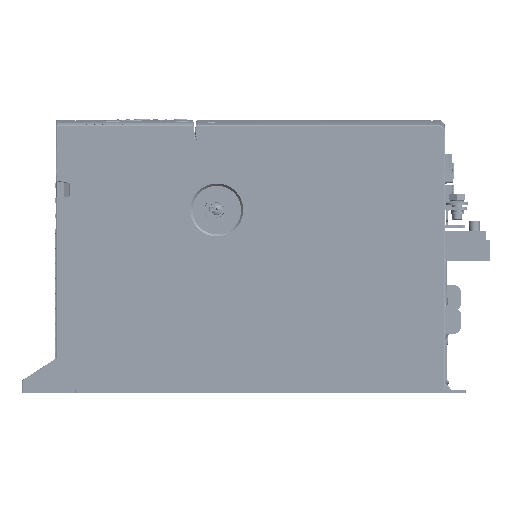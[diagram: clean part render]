
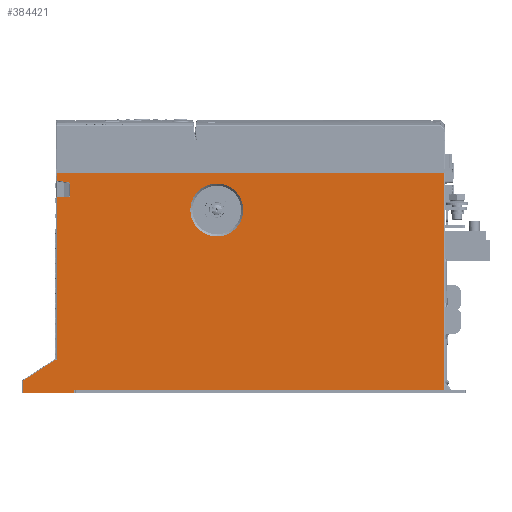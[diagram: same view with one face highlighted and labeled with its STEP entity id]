
A CAD part, left-side view. The second image highlights one B-rep face of the part: STEP entity #384421.
In plain terms, the highlighted planar face has unit normal (-1, 0, 0).
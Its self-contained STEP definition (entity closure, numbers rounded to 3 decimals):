
#36343=DIRECTION('',(0.,0.052,-0.999));
#36344=VECTOR('',#36343,1.502);
#36345=CARTESIAN_POINT('',(-115.,-11.,-133.5));
#36346=LINE('',#36345,#36344);
#36347=CARTESIAN_POINT('',(-115.,20.,-128.043));
#36348=DIRECTION('',(1.,0.,0.));
#36349=DIRECTION('',(0.,1.,0.));
#36350=AXIS2_PLACEMENT_3D('',#36347,#36348,#36349);
#36352=DIRECTION('',(0.,-0.838,0.545));
#36353=VECTOR('',#36352,23.163);
#36354=CARTESIAN_POINT('',(-115.,20.272,-127.623));
#36355=LINE('',#36354,#36353);
#36356=DIRECTION('',(0.,-1.,0.));
#36357=VECTOR('',#36356,0.352);
#36358=CARTESIAN_POINT('',(-115.,0.852,-115.));
#36359=LINE('',#36358,#36357);
#36360=CARTESIAN_POINT('',(-115.,0.5,-114.));
#36361=DIRECTION('',(-1.,0.,0.));
#36362=DIRECTION('',(0.,0.,-1.));
#36363=AXIS2_PLACEMENT_3D('',#36360,#36361,#36362);
#36365=DIRECTION('',(0.,0.985,0.174));
#36366=VECTOR('',#36365,7.382);
#36367=CARTESIAN_POINT('',(-115.,-7.77,
-5.355));
#36368=LINE('',#36367,#36366);
#36369=CARTESIAN_POINT('',(-115.,-99.2,-22.3));
#36370=DIRECTION('',(-1.,0.,0.));
#36371=DIRECTION('',(0.,0.,-1.));
#36372=AXIS2_PLACEMENT_3D('',#36369,#36370,#36371);
#36374=CARTESIAN_POINT('',(-115.,-99.2,-22.3));
#36375=DIRECTION('',(-1.,0.,0.));
#36376=DIRECTION('',(0.,0.,1.));
#36377=AXIS2_PLACEMENT_3D('',#36374,#36375,#36376);
#36379=DIRECTION('',(0.,1.,0.));
#36380=VECTOR('',#36379,239.);
#36381=CARTESIAN_POINT('',(-115.,-239.5,0.8));
#36382=LINE('',#36381,#36380);
#36388=DIRECTION('',(0.,0.,-1.));
#36389=VECTOR('',#36388,4.873);
#36390=CARTESIAN_POINT('',(-115.,-0.5,0.8));
#36391=LINE('',#36390,#36389);
#78685=DIRECTION('',(0.,-1.,0.));
#78686=VECTOR('',#78685,31.421);
#78687=CARTESIAN_POINT('',(-115.,20.5,-135.));
#78688=LINE('',#78687,#78686);
#78714=DIRECTION('',(0.,0.,-1.));
#78715=VECTOR('',#78714,6.957);
#78716=CARTESIAN_POINT('',(-115.,20.5,-128.043));
#78717=LINE('',#78716,#78715);
#78785=DIRECTION('',(0.,-1.,0.));
#78786=VECTOR('',#78785,228.5);
#78787=CARTESIAN_POINT('',(-115.,-11.,-133.5));
#78788=LINE('',#78787,#78786);
#79527=DIRECTION('',(0.,0.,1.));
#79528=VECTOR('',#79527,134.3);
#79529=CARTESIAN_POINT('',(-115.,-239.5,-133.5));
#79530=LINE('',#79529,#79528);
#200271=CARTESIAN_POINT('',(-115.,-8.595,
-13.596));
#200272=CARTESIAN_POINT('',(-115.,-8.595,
-13.729));
#200273=CARTESIAN_POINT('',(-115.,-8.547,
-13.975));
#200274=CARTESIAN_POINT('',(-115.,-8.327,
-14.318));
#200275=CARTESIAN_POINT('',(-115.,-7.984,
-14.545));
#200276=CARTESIAN_POINT('',(-115.,-7.733,
-14.594));
#200277=CARTESIAN_POINT('',(-115.,-7.596,
-14.595));
#200279=DIRECTION('',(0.,1.,0.));
#200280=VECTOR('',#200279,7.096);
#200281=CARTESIAN_POINT('',(-115.,-7.596,
-14.595));
#200282=LINE('',#200281,#200280);
#200307=DIRECTION('',(0.,0.,-1.));
#200308=VECTOR('',#200307,99.405);
#200309=CARTESIAN_POINT('',(-115.,-0.5,-14.595));
#200310=LINE('',#200309,#200308);
#200325=DIRECTION('',(0.,0.,-1.));
#200326=VECTOR('',#200325,7.258);
#200327=CARTESIAN_POINT('',(-115.,-8.595,
-6.339));
#200328=LINE('',#200327,#200326);
#200378=CARTESIAN_POINT('',(-115.,-7.77,
-5.355));
#200379=CARTESIAN_POINT('',(-115.,-7.929,
-5.386));
#200380=CARTESIAN_POINT('',(-115.,-8.204,
-5.5));
#200381=CARTESIAN_POINT('',(-115.,-8.526,
-5.881));
#200382=CARTESIAN_POINT('',(-115.,-8.592,
-6.174));
#200383=CARTESIAN_POINT('',(-115.,-8.595,
-6.339));
#283135=CARTESIAN_POINT('',(-115.,0.5,-115.));
#283136=VERTEX_POINT('',#283135);
#283137=CARTESIAN_POINT('',(-115.,-11.,-133.5));
#283138=CARTESIAN_POINT('',(-115.,-10.921,-135.));
#283139=VERTEX_POINT('',#283137);
#283140=VERTEX_POINT('',#283138);
#283141=CARTESIAN_POINT('',(-115.,20.5,-128.043));
#283142=CARTESIAN_POINT('',(-115.,20.272,-127.623));
#283143=VERTEX_POINT('',#283141);
#283144=VERTEX_POINT('',#283142);
#283145=CARTESIAN_POINT('',(-115.,0.852,-115.));
#283146=VERTEX_POINT('',#283145);
#283147=CARTESIAN_POINT('',(-115.,-0.5,-114.));
#283148=VERTEX_POINT('',#283147);
#283149=CARTESIAN_POINT('',(-115.,-7.77,
-5.355));
#283150=CARTESIAN_POINT('',(-115.,-0.5,-4.073));
#283151=VERTEX_POINT('',#283149);
#283152=VERTEX_POINT('',#283150);
#283153=CARTESIAN_POINT('',(-115.,-99.2,-38.65));
#283154=CARTESIAN_POINT('',(-115.,-99.2,-5.95));
#283155=VERTEX_POINT('',#283153);
#283156=VERTEX_POINT('',#283154);
#283157=CARTESIAN_POINT('',(-115.,-239.5,0.8));
#283158=CARTESIAN_POINT('',(-115.,-0.5,0.8));
#283159=VERTEX_POINT('',#283157);
#283160=VERTEX_POINT('',#283158);
#283260=CARTESIAN_POINT('',(-115.,-239.5,-133.5));
#283261=VERTEX_POINT('',#283260);
#284612=CARTESIAN_POINT('',(-115.,20.5,-135.));
#284614=VERTEX_POINT('',#284612);
#308088=VERTEX_POINT('',#200271);
#308089=VERTEX_POINT('',#200277);
#308090=CARTESIAN_POINT('',(-115.,-0.5,-14.595));
#308091=VERTEX_POINT('',#308090);
#308096=CARTESIAN_POINT('',(-115.,-8.595,
-6.339));
#308097=VERTEX_POINT('',#308096);
#384376=CARTESIAN_POINT('',(-115.,-109.5,-67.1));
#384377=DIRECTION('',(1.,0.,0.));
#384378=DIRECTION('',(0.,0.,1.));
#384379=AXIS2_PLACEMENT_3D('',#384376,#384377,#384378);
#384380=PLANE('',#384379);
#384382=ORIENTED_EDGE('',*,*,#384381,.F.);
#384384=ORIENTED_EDGE('',*,*,#384383,.F.);
#384386=ORIENTED_EDGE('',*,*,#384385,.F.);
#384388=ORIENTED_EDGE('',*,*,#384387,.T.);
#384390=ORIENTED_EDGE('',*,*,#384389,.F.);
#384392=ORIENTED_EDGE('',*,*,#384391,.F.);
#384394=ORIENTED_EDGE('',*,*,#384393,.T.);
#384396=ORIENTED_EDGE('',*,*,#384395,.T.);
#384397=ORIENTED_EDGE('',*,*,#384352,.T.);
#384398=ORIENTED_EDGE('',*,*,#384366,.T.);
#384400=ORIENTED_EDGE('',*,*,#384399,.F.);
#384402=ORIENTED_EDGE('',*,*,#384401,.F.);
#384404=ORIENTED_EDGE('',*,*,#384403,.F.);
#384406=ORIENTED_EDGE('',*,*,#384405,.F.);
#384408=ORIENTED_EDGE('',*,*,#384407,.F.);
#384410=ORIENTED_EDGE('',*,*,#384409,.T.);
#384412=ORIENTED_EDGE('',*,*,#384411,.F.);
#384413=EDGE_LOOP('',(#384382,#384384,#384386,#384388,#384390,#384392,#384394,
#384396,#384397,#384398,#384400,#384402,#384404,#384406,#384408,#384410,
#384412));
#384414=FACE_OUTER_BOUND('',#384413,.F.);
#384416=ORIENTED_EDGE('',*,*,#384415,.T.);
#384418=ORIENTED_EDGE('',*,*,#384417,.T.);
#384419=EDGE_LOOP('',(#384416,#384418));
#384420=FACE_BOUND('',#384419,.F.);
#384421=ADVANCED_FACE('',(#384414,#384420),#384380,.F.);
#36351=CIRCLE('',#36350,0.5);
#36364=CIRCLE('',#36363,1.);
#36373=CIRCLE('',#36372,16.35);
#36378=CIRCLE('',#36377,16.35);
#200278=B_SPLINE_CURVE_WITH_KNOTS('',3,(#200271,#200272,#200273,#200274,#200275,
#200276,#200277),.UNSPECIFIED.,.F.,.F.,(4,1,1,1,4),(0.,0.25,0.5,0.75,
1.),.UNSPECIFIED.);
#200384=B_SPLINE_CURVE_WITH_KNOTS('',3,(#200378,#200379,#200380,#200381,#200382,
#200383),.UNSPECIFIED.,.F.,.F.,(4,1,1,4),(0.,0.333,
0.667,1.),.UNSPECIFIED.);
#384352=EDGE_CURVE('',#283146,#283136,#36359,.T.);
#384366=EDGE_CURVE('',#283136,#283148,#36364,.T.);
#384381=EDGE_CURVE('',#283159,#283160,#36382,.T.);
#384383=EDGE_CURVE('',#283261,#283159,#79530,.T.);
#384385=EDGE_CURVE('',#283139,#283261,#78788,.T.);
#384387=EDGE_CURVE('',#283139,#283140,#36346,.T.);
#384389=EDGE_CURVE('',#284614,#283140,#78688,.T.);
#384391=EDGE_CURVE('',#283143,#284614,#78717,.T.);
#384393=EDGE_CURVE('',#283143,#283144,#36351,.T.);
#384395=EDGE_CURVE('',#283144,#283146,#36355,.T.);
#384399=EDGE_CURVE('',#308091,#283148,#200310,.T.);
#384401=EDGE_CURVE('',#308089,#308091,#200282,.T.);
#384403=EDGE_CURVE('',#308088,#308089,#200278,.T.);
#384405=EDGE_CURVE('',#308097,#308088,#200328,.T.);
#384407=EDGE_CURVE('',#283151,#308097,#200384,.T.);
#384409=EDGE_CURVE('',#283151,#283152,#36368,.T.);
#384411=EDGE_CURVE('',#283160,#283152,#36391,.T.);
#384415=EDGE_CURVE('',#283155,#283156,#36373,.T.);
#384417=EDGE_CURVE('',#283156,#283155,#36378,.T.);
